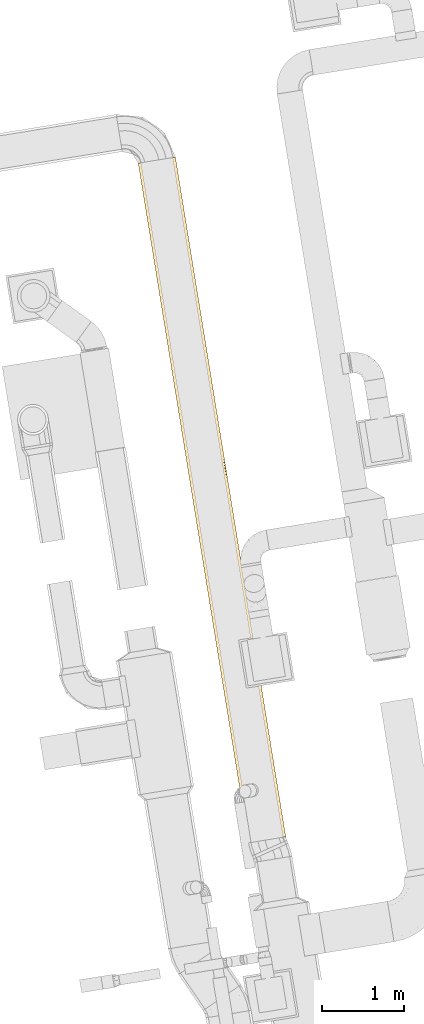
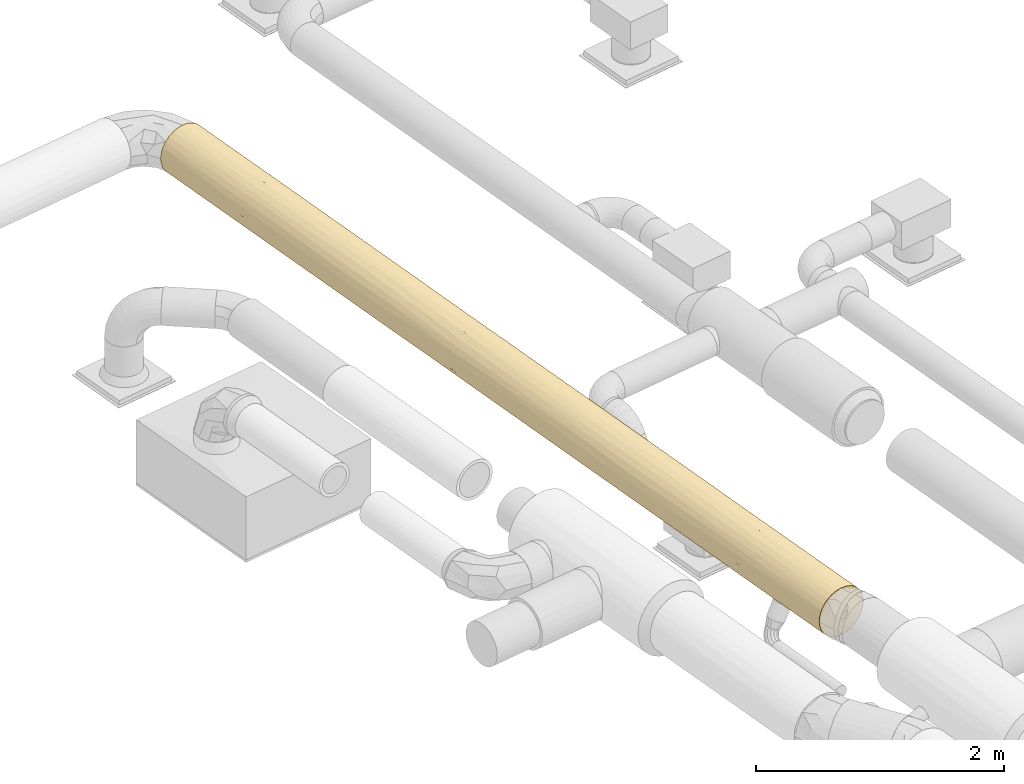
# One storey, part 6 of 39: 1 covering.
"""IFC2X3 building model written with IfcOpenShell, lengths in millimetres."""

from ifc_helpers import new_model, entity, si_unit, converted_unit, derived_unit, direction, frame, origin, origin_with_axes, place, context, subcontext, project, spatial, faceted_brep, type_object, element, save


model = new_model("IFC2X3")

# Units and contexts
plan_context = context("Plan", 3, precision=1e-05, world=origin_with_axes())
model_context = context("Model", 3, precision=0.01, world=origin(), true_north=direction((6.12323399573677e-17, 1.0)))
body_context = subcontext(model_context, "Body", "Model", "MODEL_VIEW")
ifc_project = project(units=[converted_unit("PLANEANGLEUNIT", "DEGREE", entity("IfcPositiveLengthMeasure", 0.0174532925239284), si_unit("PLANEANGLEUNIT", "RADIAN"), dimensions=[0, 0, 0, 0, 0, 0, 0]), si_unit("AREAUNIT", "SQUARE_METRE"), si_unit("LENGTHUNIT", "METRE", prefix="MILLI"), si_unit("MASSUNIT", "GRAM", prefix="KILO"), si_unit("POWERUNIT", "WATT"), si_unit("PRESSUREUNIT", "PASCAL", prefix="KILO"), si_unit("FORCEUNIT", "NEWTON", prefix="KILO"), si_unit("ELECTRICVOLTAGEUNIT", "VOLT"), si_unit("ELECTRICCURRENTUNIT", "AMPERE"), si_unit("THERMODYNAMICTEMPERATUREUNIT", "DEGREE_CELSIUS"), si_unit("TIMEUNIT", "SECOND"), si_unit("VOLUMEUNIT", "CUBIC_METRE"), derived_unit("LINEARVELOCITYUNIT", [(si_unit("LENGTHUNIT", "METRE"), 1), (si_unit("TIMEUNIT", "SECOND"), -1)]), derived_unit("VOLUMETRICFLOWRATEUNIT", [(si_unit("VOLUMEUNIT", "CUBIC_METRE"), 1), (si_unit("TIMEUNIT", "SECOND"), -1)]), derived_unit("THERMALTRANSMITTANCEUNIT", [(si_unit("POWERUNIT", "WATT"), 1), (si_unit("THERMODYNAMICTEMPERATUREUNIT", "KELVIN"), -1), (si_unit("AREAUNIT", "SQUARE_METRE"), -1)]), derived_unit("SOUNDPRESSUREUNIT", [(si_unit("PRESSUREUNIT", "PASCAL"), 1)])], contexts=[model_context, plan_context])

# Site, building, storey
site_placement = place(None, frame((-0.00071070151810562, 0.00438415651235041, 0.0), z_axis=(0.0, 0.0, 1.0), x_axis=(-0.160236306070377, 0.987078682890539, 0.0)))
site = spatial("IfcSite", under=ifc_project, at=site_placement, Name="Default", CompositionType="ELEMENT")
building_placement = place(site_placement, origin_with_axes())
building = spatial("IfcBuilding", under=site, at=building_placement, CompositionType="ELEMENT")
storey_placement = place(building_placement, frame((0.0, 0.0, 58999.9999999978), z_axis=(0.0, 0.0, 1.0), x_axis=(1.0, 0.0, 0.0)))
storey = spatial("IfcBuildingStorey", under=building, at=storey_placement, Name="Nivå F", CompositionType="ELEMENT", Elevation=58999.9999999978)

# Covering
covering_type = type_object("IfcCoveringType", Name="Duct Insulation:MuT030", PredefinedType="INSULATION")
covering_placement = place(storey_placement, frame((774531.081764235, -503533.958173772, 2898.40472776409), z_axis=(0.0, 0.0, 1.0), x_axis=(1.0, 0.0, 0.0)))
element("IfcCovering", 1, at=covering_placement, inside=storey, type_object=covering_type, Name="Duct Insulation:MuT030", ObjectType="Duct Insulation:MuT030", PredefinedType="INSULATION", context=body_context, shape_type="Brep", body=[
    faceted_brep([(8396.14035177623, 438.818111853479, 131.802012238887), (8396.14035177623, 455.828692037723, 180.41545742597), (8396.14035177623, 461.595272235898, 231.595272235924), (8396.14035177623, 455.828692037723, 282.775087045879), (8396.14035177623, 438.818111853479, 331.388532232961), (8396.14035177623, 411.416513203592, 374.997926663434), (8396.14035177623, 374.997926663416, 411.416513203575), (8396.14035177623, 331.388532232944, 438.818111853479), (8396.14035177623, 282.775087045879, 455.828692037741), (8396.14035177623, 231.595272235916, 461.595272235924), (8396.14035177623, 180.415457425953, 455.828692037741), (8396.14035177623, 131.802012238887, 438.818111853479), (8396.14035177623, 88.1926178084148, 411.416513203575), (8396.14035177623, 51.774031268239, 374.997926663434), (8396.14035177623, 24.3724326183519, 331.388532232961), (8396.14035177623, 7.36185243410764, 282.775087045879), (8396.14035177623, 1.59527223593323, 231.595272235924), (8396.14035177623, 7.36185243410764, 180.41545742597), (8396.14035177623, 24.3724326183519, 131.802012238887), (8396.14035177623, 51.774031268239, 88.1926178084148), (8396.14035177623, 88.1926178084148, 51.7740312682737), (8396.14035177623, 131.802012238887, 24.3724326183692), (8396.14035177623, 180.415457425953, 7.36185243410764), (8396.14035177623, 231.595272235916, 1.59527223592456), (8396.14035177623, 282.775087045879, 7.36185243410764), (8396.14035177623, 331.388532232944, 24.3724326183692), (8396.14035177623, 374.997926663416, 51.7740312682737), (8396.14035177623, 411.416513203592, 88.1926178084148), (0.0, 374.997926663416, 51.774031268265), (0.0, 331.388532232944, 24.3724326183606), (0.0, 282.775087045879, 7.36185243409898), (0.0, 231.595272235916, 1.5952722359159), (0.0, 180.415457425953, 7.36185243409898), (0.0, 131.802012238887, 24.3724326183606), (0.0, 88.1926178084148, 51.774031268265), (0.0, 51.774031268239, 88.1926178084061), (0.0, 24.3724326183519, 131.802012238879), (0.0, 7.36185243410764, 180.415457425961), (0.0, 1.59527223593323, 231.595272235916), (0.0, 7.36185243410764, 282.77508704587), (0.0, 24.3724326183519, 331.388532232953), (0.0, 51.774031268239, 374.997926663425), (0.0, 88.1926178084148, 411.416513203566), (0.0, 131.802012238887, 438.818111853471), (0.0, 180.415457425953, 455.828692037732), (0.0, 231.595272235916, 461.595272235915), (0.0, 282.775087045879, 455.828692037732), (0.0, 331.388532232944, 438.818111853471), (0.0, 374.997926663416, 411.416513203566), (0.0, 411.416513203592, 374.997926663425), (0.0, 438.818111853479, 331.388532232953), (0.0, 455.828692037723, 282.77508704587), (0.0, 461.595272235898, 231.595272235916), (0.0, 455.828692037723, 180.415457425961), (0.0, 438.818111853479, 131.802012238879), (0.0, 411.416513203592, 88.1926178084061), (7582.20982635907, 68.9607128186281, 68.9607123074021), (7759.77503597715, 36.8487065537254, 109.227894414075), (7038.34729051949, 36.8487067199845, 109.227894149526), (1358.11136072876, 36.8487066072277, 109.227894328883), (632.256471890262, 36.8487065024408, 109.227894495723), (814.058027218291, 68.9607127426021, 68.9607123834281), (6104.76305789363, 33.0486064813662, 115.495222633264), (6469.70528048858, 67.8693514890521, 70.0594468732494), (814.058026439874, 14.5021063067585, 155.631087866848), (3706.80239696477, 5.34276640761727, 190.24550069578), (4236.34562165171, 1.59527223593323, 231.595272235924), (3177.25921623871, 1.59527223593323, 231.595272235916), (6624.54827639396, 168.370014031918, 10.4560248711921), (7541.22564947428, 155.631088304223, 14.5021061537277), (6937.75012757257, 109.227895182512, 36.8487060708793), (7337.05394636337, 1.59527223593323, 231.595272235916), (1059.086405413, 1.59527223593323, 231.595272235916), (7582.20982774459, 14.5021063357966, 155.631087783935), (4746.75109791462, 12.7708533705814, 160.772438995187), (5767.56206334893, 179.860882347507, 7.48915250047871), (5257.15779910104, 231.595272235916, 1.59527223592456), (6277.96854365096, 231.595272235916, 1.59527223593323), (856.789147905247, 155.631088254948, 14.5021061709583), (639.951922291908, 109.601407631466, 36.6145116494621), (5011.704269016, 179.285963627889, 7.62264838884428), (4236.34705455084, 231.595272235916, 1.59527223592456), (5218.88074978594, 231.595272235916, 1.59527223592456), (5042.30133097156, 94.4015150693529, 46.9933410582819), (4648.83369262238, 133.162330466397, 23.7228210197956), (5349.31445932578, 136.34352762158, 22.2460301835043), (2685.92973127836, 9.10011645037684, 173.320872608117), (1752.22385878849, 10.709824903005, 167.488960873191), (2294.3878539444, 33.0863889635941, 115.430633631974), (7337.05444771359, 231.595272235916, 1.59527223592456), (1462.91718830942, 109.227895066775, 36.8487061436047), (3706.80240715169, 165.429037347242, 11.318107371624), (3761.12795959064, 95.0258626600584, 46.5309689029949), (2881.93404120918, 106.585486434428, 38.5342625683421), (2647.71600179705, 147.196747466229, 17.6399287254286), (2219.40790176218, 106.235888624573, 38.7610819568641), (1768.52162516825, 168.149804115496, 10.5191030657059), (1900.95462839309, 67.0537080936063, 70.890344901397), (7023.28049292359, 75.9646515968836, 62.2461951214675), (7641.86047030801, 109.374719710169, 36.7565272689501), (6643.9687660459, 10.7108341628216, 167.48548345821), (3177.2611504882, 231.595272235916, 1.5952722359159), (4159.79313208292, 231.595272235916, 1.59527223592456), (2118.17281082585, 1.59527223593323, 231.595272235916), (1059.08934236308, 231.595272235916, 1.59527223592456), (2118.17524642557, 231.595272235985, 1.59527223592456), (6277.96754095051, 1.59527223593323, 231.595272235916), (5277.51367967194, 34.5711359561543, 112.929819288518), (5611.02272020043, 68.9607135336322, 68.960711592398), (4336.78154521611, 26.8097370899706, 126.891477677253), (5257.15658130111, 1.59527223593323, 231.595272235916), (5719.10112716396, 9.22377355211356, 172.850769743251), (3053.07367658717, 36.1249301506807, 110.387412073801), (2794.61920477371, 68.960713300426, 68.9607118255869), (3735.98733137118, 53.0338959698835, 86.6268794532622), (2912.48760440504, 188.640232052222, 5.64203697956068), (2647.71819845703, 231.595272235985, 1.59527223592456), (3138.98093262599, 231.595272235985, 1.59527223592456), (4355.46547996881, 174.144695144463, 8.88597473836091), (6003.88097683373, 119.619132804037, 30.6939427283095), (2326.76013326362, 182.30240174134, 6.93950685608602), (4401.85349322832, 95.7179930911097, 46.0222003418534), (3706.80240402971, 22.4248757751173, 135.951426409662), (4548.16764156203, 51.0383495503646, 89.1200194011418), (7582.20982335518, 394.229832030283, 68.9607126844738), (7759.77503375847, 353.962649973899, 36.8487065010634), (7038.34728463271, 353.962650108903, 36.8487065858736), (813.930527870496, 448.688438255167, 155.631088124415), (1771.59207973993, 294.82053137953, 10.4560251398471), (854.914704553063, 307.559456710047, 14.5021063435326), (1458.39022901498, 353.96265014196, 36.8487066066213), (6277.97255766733, 461.595272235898, 231.595272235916), (6624.54827342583, 452.73451948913, 168.370013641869), (5767.56206323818, 455.70139194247, 179.860882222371), (813.930527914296, 394.229832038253, 68.9607126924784), (636.365317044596, 426.341838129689, 109.227894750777), (1357.79306585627, 426.341838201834, 109.227894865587), (6104.76304945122, 347.695321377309, 33.0486062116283), (6469.70527230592, 393.131097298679, 67.8693511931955), (4689.33793882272, 273.094516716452, 5.37013502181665), (3706.80240410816, 440.656263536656, 135.712521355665), (3706.80240451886, 457.820409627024, 190.0960287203), (4746.75109135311, 450.397773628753, 160.704755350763), (6643.96875570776, 295.705061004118, 10.7108341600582), (7582.20982323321, 307.559456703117, 14.502106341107), (1752.17159221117, 452.479710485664, 167.485484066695), (1059.0911305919, 461.595272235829, 231.595272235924), (7337.0492211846, 461.595272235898, 231.595272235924), (7541.22564698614, 448.68843825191, 155.631088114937), (7023.28048746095, 400.94434905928, 75.9646512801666), (7641.86046674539, 426.434017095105, 109.374719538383), (3177.2589247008, 461.595272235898, 231.595272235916), (4159.79914757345, 461.595272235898, 231.595272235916), (4236.35005529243, 461.595272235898, 231.595272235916), (1372.85986425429, 387.225893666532, 62.2461958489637), (754.279885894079, 353.815825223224, 36.7565275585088), (3649.38925385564, 302.485789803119, 12.7927710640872), (5218.88106838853, 461.595272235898, 231.595272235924), (5257.16130647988, 461.595272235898, 231.595272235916), (4059.120438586, 336.343832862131, 26.8326314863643), (2628.57828761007, 283.329662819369, 7.48915266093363), (2291.37730029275, 430.141938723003, 115.495223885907), (1926.43508001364, 395.321193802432, 70.0594477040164), (6937.75012281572, 426.341838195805, 109.227894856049), (2118.1677941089, 461.595272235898, 231.595272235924), (5710.08640242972, 289.888315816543, 9.10500038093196), (5611.02271342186, 394.229832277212, 68.9607129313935), (4689.33793909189, 327.478024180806, 22.5342814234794), (5345.37792830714, 352.903044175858, 36.1869191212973), (2686.05394072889, 454.085544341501, 173.302229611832), (3138.99501554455, 461.595272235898, 231.595272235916), (2785.11763817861, 394.229832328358, 68.9607129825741), (3050.76241824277, 427.003625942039, 110.287501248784), (4668.18032157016, 376.341971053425, 52.8541376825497), (3846.50135984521, 374.062419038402, 51.0319534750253), (4523.13878651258, 415.570111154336, 93.5617304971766), (2392.25938101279, 343.571413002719, 30.6939434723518), (3143.15155699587, 354.920856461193, 37.454085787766), (3705.42503707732, 412.078556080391, 89.0267474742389), (6003.88097127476, 432.496601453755, 119.619132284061), (5254.73129980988, 425.705054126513, 108.220264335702), (7582.20982325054, 394.229831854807, 394.229831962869), (7759.77503372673, 426.341838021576, 353.962649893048), (7038.34728468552, 426.341837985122, 353.962649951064), (813.930528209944, 307.559456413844, 448.688438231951), (1771.59207992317, 452.734519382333, 294.820531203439), (854.914705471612, 448.688438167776, 307.559456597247), (1458.39023035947, 426.341837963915, 353.962649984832), (6277.94653182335, 231.595272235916, 461.595272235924), (6624.5482733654, 294.82053094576, 452.734519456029), (5767.56206353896, 283.32966230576, 455.701391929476), (813.930528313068, 394.229831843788, 394.229831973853), (636.365317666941, 353.962649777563, 426.341838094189), (1357.79306646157, 353.962649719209, 426.341838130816), (6104.76304948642, 430.141938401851, 347.695321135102), (6469.70527057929, 395.321193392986, 393.131097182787), (4689.3379459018, 457.820409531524, 273.094516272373), (3706.80240197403, 327.478023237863, 440.656263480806), (3706.80240215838, 273.094515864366, 457.820409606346), (4746.75108954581, 302.485789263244, 450.397773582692), (6643.96875684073, 452.479710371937, 295.705060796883), (7582.20982308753, 448.688438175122, 307.559456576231), (1752.17159268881, 295.705060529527, 452.479710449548), (1059.08313167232, 231.595272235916, 461.595272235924), (7337.05722010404, 231.595272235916, 461.595272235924), (7541.22564653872, 307.559456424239, 448.688438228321), (7023.28048659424, 387.225893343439, 400.944348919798), (7641.86046542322, 353.815825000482, 426.43401705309), (3177.24939501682, 231.595272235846, 461.595272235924), (4159.80498498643, 231.595272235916, 461.595272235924), (4236.332526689, 231.595272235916, 461.595272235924), (1372.85986543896, 400.944348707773, 387.225893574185), (754.279887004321, 426.434016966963, 353.815825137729), (3649.38925965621, 450.39777349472, 302.485789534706), (5218.90188647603, 231.595272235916, 461.595272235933), (5257.13952925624, 231.595272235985, 461.595272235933), (4059.12044516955, 436.357913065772, 336.343832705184), (2628.5782885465, 455.701391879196, 283.329662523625), (2291.37730145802, 347.695320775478, 430.141938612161), (1926.43508201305, 393.131096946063, 395.321193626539), (6937.75012186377, 353.962649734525, 426.341838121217), (2118.16626334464, 231.595272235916, 461.595272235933), (5710.08640614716, 454.085544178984, 289.888315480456), (5611.02271222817, 394.229831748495, 394.22983206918), (4689.33794602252, 440.656263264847, 327.47802370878), (5345.37793091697, 427.003625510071, 352.903043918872), (2686.05394104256, 289.88831504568, 454.085544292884), (3138.99939398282, 231.595272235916, 461.595272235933), (2785.11764008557, 394.229831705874, 394.229832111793), (3050.76241855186, 352.903043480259, 427.003625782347), (4668.18032029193, 410.33640685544, 376.341970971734), (3846.50136785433, 412.158590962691, 374.0624190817), (4523.13878169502, 369.628813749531, 415.570111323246), (2392.25938273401, 432.496601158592, 343.571412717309), (3143.15156411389, 425.736458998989, 354.920855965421), (3705.42503774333, 374.163797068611, 412.078556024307), (6003.88096992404, 343.571412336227, 432.496601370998), (5254.73129790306, 354.970280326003, 425.705054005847), (7582.20982346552, 68.9607125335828, 394.229831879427), (7759.77503388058, 109.227894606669, 426.341838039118), (7038.34728513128, 109.227894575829, 426.341838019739), (813.930528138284, 14.5021062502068, 307.559456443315), (1771.59207915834, 168.370013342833, 452.734519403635), (854.914705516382, 155.63108792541, 448.688438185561), (1458.39023049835, 109.227894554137, 426.341838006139), (6624.54827364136, 10.4560250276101, 294.82053098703), (5767.56206373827, 7.48915254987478, 283.32966233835), (813.930528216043, 68.960712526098, 394.229831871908), (636.365317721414, 36.848706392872, 353.962649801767), (1357.79306632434, 36.8487063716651, 353.96264976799), (6104.76304998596, 115.495223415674, 430.141938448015), (6469.70526986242, 70.0594473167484, 395.321193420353), (4689.33794906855, 190.096028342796, 457.820409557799), (3706.80240061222, 22.5342810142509, 327.47802328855), (3706.80240071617, 5.37013487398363, 273.094515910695), (4746.75108848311, 12.7927709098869, 302.485789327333), (6643.96875793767, 167.485483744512, 452.479710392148), (7582.20982336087, 155.631087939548, 448.688438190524), (1752.17159253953, 10.7108340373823, 295.705060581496), (7541.22564647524, 14.502106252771, 307.559456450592), (7023.28048640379, 62.2461956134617, 387.225893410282), (7641.86046485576, 36.7565274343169, 353.815825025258), (1372.85986558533, 75.9646509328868, 400.944348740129), (754.279887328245, 109.37471937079, 426.434016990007), (3649.3892619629, 160.704755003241, 450.397773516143), (4059.12044797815, 126.84671177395, 436.357913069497), (2628.57828833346, 179.860882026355, 455.701391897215), (2291.37730139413, 33.0486059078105, 347.695320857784), (1926.4350824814, 67.8693509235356, 393.131097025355), (6937.75012162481, 36.8487063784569, 353.962649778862), (5710.08640838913, 173.302229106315, 454.085544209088), (5611.02271190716, 68.9607124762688, 394.229831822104), (4689.33794913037, 135.712520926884, 440.656263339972), (5345.37793244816, 110.287500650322, 427.003625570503), (2686.05394076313, 9.10500019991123, 289.888315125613), (2785.11764030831, 68.9607124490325, 394.229831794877), (3050.7624181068, 36.1869187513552, 352.903043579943), (4668.18032017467, 86.8485734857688, 410.336406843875), (3846.50137139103, 89.1281253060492, 412.158590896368), (4523.13877879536, 47.6204330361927, 369.628813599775), (2392.25938281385, 119.619131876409, 432.496601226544), (3143.15156718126, 108.26968873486, 425.736459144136), (3705.42503703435, 51.1119884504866, 374.163797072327), (6003.8809695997, 30.6939431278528, 343.571412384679), (5254.73129681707, 37.485490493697, 354.970280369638)], [[[0, 1, 2, 3, 4, 5, 6, 7, 8, 9, 10, 11, 12, 13, 14, 15, 16, 17, 18, 19, 20, 21, 22, 23, 24, 25, 26, 27]], [[28, 29, 30, 31, 32, 33, 34, 35, 36, 37, 38, 39, 40, 41, 42, 43, 44, 45, 46, 47, 48, 49, 50, 51, 52, 53, 54, 55]], [[56, 57, 58]], [[59, 60, 61]], [[62, 63, 58]], [[56, 20, 19]], [[64, 37, 36]], [[65, 66, 67]], [[68, 69, 70]], [[61, 35, 34]], [[17, 16, 71]], [[72, 38, 37]], [[59, 64, 60]], [[73, 58, 57]], [[74, 66, 65]], [[75, 76, 77]], [[78, 79, 33]], [[80, 81, 82, 76]], [[33, 32, 78]], [[83, 84, 85]], [[86, 87, 88]], [[68, 89, 69]], [[79, 90, 61]], [[69, 22, 21]], [[57, 18, 73]], [[60, 35, 61]], [[91, 92, 93]], [[94, 95, 96]], [[59, 97, 88]], [[98, 99, 56]], [[18, 17, 73]], [[100, 73, 71]], [[100, 58, 73]], [[91, 101, 102, 81]], [[72, 87, 103]], [[60, 36, 35]], [[64, 87, 72]], [[99, 20, 56]], [[89, 23, 22]], [[32, 31, 104]], [[89, 22, 69]], [[32, 104, 78]], [[96, 104, 105]], [[98, 58, 63]], [[99, 70, 69]], [[34, 33, 79]], [[97, 61, 90]], [[64, 59, 87]], [[72, 37, 64]], [[17, 71, 73]], [[100, 71, 106]], [[61, 97, 59]], [[86, 103, 87]], [[87, 59, 88]], [[107, 108, 62]], [[74, 65, 109]], [[106, 110, 111]], [[58, 100, 62]], [[66, 74, 110]], [[111, 74, 107]], [[108, 63, 62]], [[112, 113, 114]], [[115, 116, 117, 101]], [[113, 95, 93]], [[77, 68, 75]], [[78, 96, 90]], [[118, 80, 84]], [[113, 97, 95]], [[68, 70, 119]], [[89, 68, 77]], [[63, 119, 70]], [[119, 83, 85]], [[75, 80, 76]], [[104, 96, 78]], [[120, 115, 94]], [[91, 84, 92]], [[116, 115, 120]], [[83, 121, 84]], [[112, 114, 122]], [[113, 112, 88]], [[122, 65, 86]], [[86, 88, 112]], [[103, 86, 67]], [[111, 62, 100]], [[108, 107, 123]], [[106, 111, 100]], [[74, 111, 110]], [[68, 119, 75]], [[80, 85, 84]], [[119, 63, 108]], [[63, 70, 98]], [[95, 97, 90]], [[113, 88, 97]], [[111, 107, 62]], [[109, 107, 74]], [[96, 95, 90]], [[95, 94, 93]], [[91, 93, 94]], [[92, 113, 93]], [[85, 75, 119]], [[84, 91, 118]], [[75, 85, 80]], [[83, 119, 108]], [[108, 123, 83]], [[123, 114, 121]], [[123, 121, 83]], [[92, 84, 121]], [[91, 81, 118]], [[81, 80, 118]], [[36, 60, 64]], [[56, 19, 57]], [[18, 57, 19]], [[114, 113, 92]], [[86, 112, 122]], [[121, 114, 92]], [[109, 114, 123]], [[69, 21, 99]], [[20, 99, 21]], [[90, 79, 78]], [[34, 79, 61]], [[86, 65, 67]], [[65, 122, 109]], [[114, 109, 122]], [[107, 109, 123]], [[96, 120, 94]], [[101, 91, 115]], [[91, 94, 115]], [[96, 105, 120]], [[116, 120, 105]], [[99, 98, 70]], [[58, 98, 56]], [[124, 125, 126]], [[54, 53, 127]], [[128, 129, 130]], [[131, 132, 133]], [[134, 135, 136]], [[134, 28, 55]], [[54, 135, 55]], [[24, 23, 89]], [[104, 31, 30]], [[129, 30, 29]], [[126, 137, 138]], [[139, 82, 81, 102]], [[140, 141, 142]], [[143, 144, 89]], [[145, 136, 127]], [[135, 127, 136]], [[146, 145, 127]], [[132, 147, 148]], [[149, 150, 124]], [[148, 1, 0]], [[25, 144, 125]], [[27, 26, 124]], [[141, 151, 152, 153]], [[134, 154, 155]], [[156, 102, 101, 117]], [[125, 144, 126]], [[142, 153, 157, 158]], [[156, 159, 139]], [[105, 128, 160]], [[136, 161, 162]], [[25, 24, 144]], [[143, 126, 144]], [[134, 155, 28]], [[129, 128, 104]], [[150, 27, 124]], [[147, 2, 1]], [[53, 52, 146]], [[104, 30, 129]], [[132, 148, 163]], [[147, 1, 148]], [[154, 136, 162]], [[155, 130, 129]], [[149, 126, 138]], [[150, 163, 148]], [[24, 89, 144]], [[143, 89, 77]], [[53, 146, 127]], [[145, 146, 164]], [[165, 77, 76, 82]], [[126, 143, 137]], [[138, 137, 166]], [[165, 167, 168]], [[139, 159, 167]], [[169, 164, 170, 151]], [[136, 145, 161]], [[162, 161, 171]], [[169, 140, 172]], [[173, 174, 175]], [[130, 162, 176]], [[104, 128, 105]], [[128, 130, 176]], [[160, 117, 116, 105]], [[176, 171, 177]], [[177, 171, 174]], [[160, 156, 117]], [[178, 171, 172]], [[140, 142, 175]], [[163, 138, 179]], [[147, 132, 131]], [[132, 163, 179]], [[158, 131, 133]], [[175, 174, 178]], [[166, 173, 180]], [[133, 142, 158]], [[165, 137, 143]], [[168, 166, 137]], [[77, 165, 143]], [[165, 82, 139]], [[169, 161, 145]], [[172, 171, 161]], [[164, 169, 145]], [[169, 151, 141]], [[166, 180, 179]], [[166, 168, 173]], [[128, 176, 160]], [[160, 176, 177]], [[132, 179, 133]], [[133, 179, 180]], [[179, 138, 166]], [[138, 163, 149]], [[176, 162, 171]], [[162, 130, 154]], [[124, 26, 125]], [[25, 125, 26]], [[55, 135, 134]], [[54, 127, 135]], [[159, 177, 174]], [[160, 177, 156]], [[165, 168, 137]], [[173, 168, 167]], [[173, 167, 159]], [[173, 175, 180]], [[169, 172, 161]], [[178, 172, 140]], [[175, 178, 140]], [[171, 178, 174]], [[175, 142, 180]], [[133, 180, 142]], [[129, 29, 155]], [[28, 155, 29]], [[148, 0, 150]], [[27, 150, 0]], [[156, 139, 102]], [[165, 139, 167]], [[142, 141, 153]], [[169, 141, 140]], [[177, 159, 156]], [[173, 159, 174]], [[150, 149, 163]], [[126, 149, 124]], [[155, 154, 130]], [[136, 154, 134]], [[181, 182, 183]], [[47, 46, 184]], [[185, 186, 187]], [[188, 189, 190]], [[191, 192, 193]], [[191, 49, 48]], [[47, 192, 48]], [[3, 2, 147]], [[146, 52, 51]], [[186, 51, 50]], [[183, 194, 195]], [[196, 157, 153, 152]], [[197, 198, 199]], [[200, 201, 147]], [[202, 193, 184]], [[192, 184, 193]], [[203, 202, 184]], [[189, 204, 205]], [[206, 207, 181]], [[205, 8, 7]], [[4, 201, 182]], [[6, 5, 181]], [[198, 208, 209, 210]], [[191, 211, 212]], [[213, 152, 151, 170]], [[182, 201, 183]], [[199, 210, 214, 215]], [[213, 216, 196]], [[164, 185, 217]], [[193, 218, 219]], [[4, 3, 201]], [[200, 183, 201]], [[191, 212, 49]], [[186, 185, 146]], [[207, 6, 181]], [[204, 9, 8]], [[46, 45, 203]], [[146, 51, 186]], [[189, 205, 220]], [[204, 8, 205]], [[211, 193, 219]], [[212, 187, 186]], [[206, 183, 195]], [[207, 220, 205]], [[3, 147, 201]], [[200, 147, 131]], [[46, 203, 184]], [[202, 203, 221]], [[222, 131, 158, 157]], [[183, 200, 194]], [[195, 194, 223]], [[222, 224, 225]], [[196, 216, 224]], [[226, 221, 227, 208]], [[193, 202, 218]], [[219, 218, 228]], [[226, 197, 229]], [[230, 231, 232]], [[187, 219, 233]], [[146, 185, 164]], [[185, 187, 233]], [[170, 164, 217]], [[233, 228, 234]], [[234, 228, 231]], [[217, 213, 170]], [[235, 228, 229]], [[197, 199, 232]], [[220, 195, 236]], [[204, 189, 188]], [[189, 220, 236]], [[215, 188, 190]], [[232, 231, 235]], [[223, 230, 237]], [[190, 199, 215]], [[222, 194, 200]], [[225, 223, 194]], [[131, 222, 200]], [[222, 157, 196]], [[226, 218, 202]], [[229, 228, 218]], [[221, 226, 202]], [[226, 208, 198]], [[223, 237, 236]], [[223, 225, 230]], [[185, 233, 217]], [[217, 233, 234]], [[189, 236, 190]], [[190, 236, 237]], [[236, 195, 223]], [[195, 220, 206]], [[233, 219, 228]], [[219, 187, 211]], [[181, 5, 182]], [[4, 182, 5]], [[48, 192, 191]], [[47, 184, 192]], [[216, 234, 231]], [[217, 234, 213]], [[222, 225, 194]], [[230, 225, 224]], [[230, 224, 216]], [[230, 232, 237]], [[226, 229, 218]], [[235, 229, 197]], [[232, 235, 197]], [[228, 235, 231]], [[232, 199, 237]], [[190, 237, 199]], [[186, 50, 212]], [[49, 212, 50]], [[205, 7, 207]], [[6, 207, 7]], [[213, 196, 152]], [[222, 196, 224]], [[199, 198, 210]], [[226, 198, 197]], [[234, 216, 213]], [[230, 216, 231]], [[207, 206, 220]], [[183, 206, 181]], [[212, 211, 187]], [[193, 211, 191]], [[238, 239, 240]], [[40, 39, 241]], [[242, 243, 244]], [[106, 245, 246]], [[247, 248, 249]], [[247, 42, 41]], [[40, 248, 41]], [[10, 9, 204]], [[203, 45, 44]], [[243, 44, 43]], [[240, 250, 251]], [[252, 214, 210, 209]], [[253, 254, 255]], [[256, 257, 204]], [[258, 249, 241]], [[248, 241, 249]], [[72, 258, 241]], [[245, 71, 259]], [[260, 261, 238]], [[259, 15, 14]], [[11, 257, 239]], [[13, 12, 238]], [[254, 67, 66]], [[247, 262, 263]], [[264, 209, 208, 227]], [[239, 257, 240]], [[66, 110, 255]], [[264, 265, 252]], [[221, 242, 266]], [[249, 267, 268]], [[11, 10, 257]], [[256, 240, 257]], [[247, 263, 42]], [[243, 242, 203]], [[261, 13, 238]], [[71, 16, 15]], [[39, 38, 72]], [[203, 44, 243]], [[245, 259, 269]], [[71, 15, 259]], [[262, 249, 268]], [[263, 244, 243]], [[260, 240, 251]], [[261, 269, 259]], [[10, 204, 257]], [[256, 204, 188]], [[39, 72, 241]], [[258, 72, 103]], [[270, 188, 215, 214]], [[240, 256, 250]], [[251, 250, 271]], [[270, 272, 273]], [[252, 265, 272]], [[103, 67, 274]], [[249, 258, 267]], [[268, 267, 275]], [[274, 253, 276]], [[277, 278, 279]], [[244, 268, 280]], [[203, 242, 221]], [[242, 244, 280]], [[227, 221, 266]], [[280, 275, 281]], [[281, 275, 278]], [[266, 264, 227]], [[282, 275, 276]], [[253, 255, 279]], [[269, 251, 283]], [[71, 245, 106]], [[245, 269, 283]], [[110, 106, 246]], [[279, 278, 282]], [[271, 277, 284]], [[246, 255, 110]], [[270, 250, 256]], [[273, 271, 250]], [[188, 270, 256]], [[270, 214, 252]], [[274, 267, 258]], [[276, 275, 267]], [[103, 274, 258]], [[274, 67, 254]], [[271, 284, 283]], [[271, 273, 277]], [[242, 280, 266]], [[266, 280, 281]], [[245, 283, 246]], [[246, 283, 284]], [[283, 251, 271]], [[251, 269, 260]], [[280, 268, 275]], [[268, 244, 262]], [[238, 12, 239]], [[11, 239, 12]], [[41, 248, 247]], [[40, 241, 248]], [[265, 281, 278]], [[266, 281, 264]], [[270, 273, 250]], [[277, 273, 272]], [[277, 272, 265]], [[277, 279, 284]], [[274, 276, 267]], [[282, 276, 253]], [[279, 282, 253]], [[275, 282, 278]], [[279, 255, 284]], [[246, 284, 255]], [[243, 43, 263]], [[42, 263, 43]], [[259, 14, 261]], [[13, 261, 14]], [[264, 252, 209]], [[270, 252, 272]], [[255, 254, 66]], [[274, 254, 253]], [[281, 265, 264]], [[277, 265, 278]], [[261, 260, 269]], [[240, 260, 238]], [[263, 262, 244]], [[249, 262, 247]]]),
])

save(model, "model.ifc")
